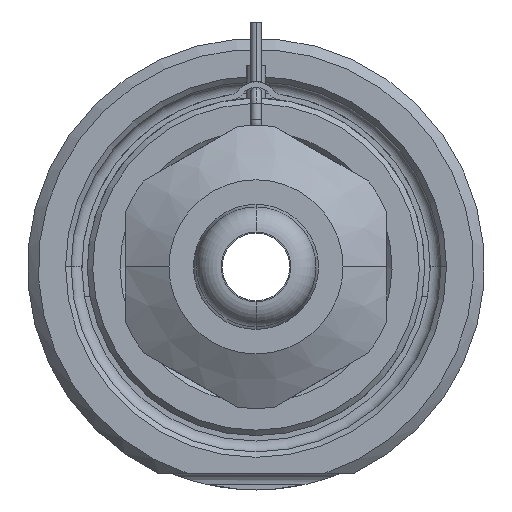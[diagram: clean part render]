
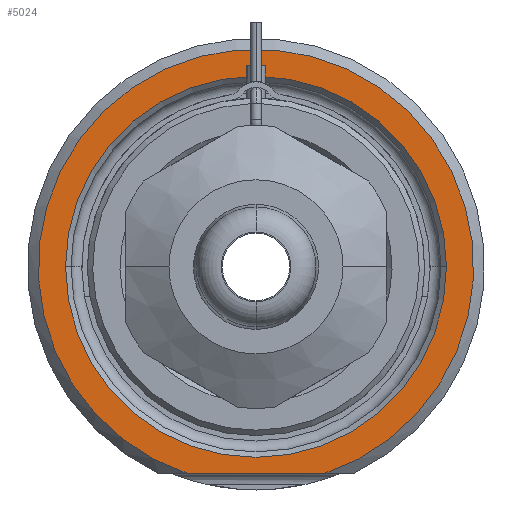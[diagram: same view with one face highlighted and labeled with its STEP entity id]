
A CAD part, front view. The second image highlights one B-rep face of the part: STEP entity #5024.
In plain terms, the highlighted planar face has unit normal (0, -1, 0).
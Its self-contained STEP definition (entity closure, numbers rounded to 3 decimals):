
#1520=DIRECTION('',(1.,0.,0.));
#1521=VECTOR('',#1520,12.49);
#1522=CARTESIAN_POINT('',(-6.245,0.,-19.));
#1523=LINE('',#1522,#1521);
#1524=CARTESIAN_POINT('',(0.,0.,0.));
#1525=DIRECTION('',(0.,1.,0.));
#1526=DIRECTION('',(-1.,0.,0.));
#1527=AXIS2_PLACEMENT_3D('',#1524,#1525,#1526);
#1529=CARTESIAN_POINT('',(0.,0.,0.));
#1530=DIRECTION('',(0.,1.,0.));
#1531=DIRECTION('',(1.,0.,0.));
#1532=AXIS2_PLACEMENT_3D('',#1529,#1530,#1531);
#1638=CARTESIAN_POINT('',(0.,0.,0.));
#1639=DIRECTION('',(0.,-1.,0.));
#1640=DIRECTION('',(0.312,0.,-0.95));
#1641=AXIS2_PLACEMENT_3D('',#1638,#1639,#1640);
#2724=CARTESIAN_POINT('',(-17.5,0.,0.));
#2725=CARTESIAN_POINT('',(17.5,0.,0.));
#2726=VERTEX_POINT('',#2724);
#2727=VERTEX_POINT('',#2725);
#2768=CARTESIAN_POINT('',(-6.245,0.,-19.));
#2769=CARTESIAN_POINT('',(6.245,0.,-19.));
#2770=VERTEX_POINT('',#2768);
#2771=VERTEX_POINT('',#2769);
#5008=CARTESIAN_POINT('',(0.,0.,0.));
#5009=DIRECTION('',(0.,-1.,0.));
#5010=DIRECTION('',(1.,0.,0.));
#5011=AXIS2_PLACEMENT_3D('',#5008,#5009,#5010);
#5012=PLANE('',#5011);
#5014=ORIENTED_EDGE('',*,*,#5013,.F.);
#5016=ORIENTED_EDGE('',*,*,#5015,.F.);
#5017=EDGE_LOOP('',(#5014,#5016));
#5018=FACE_OUTER_BOUND('',#5017,.F.);
#5019=ORIENTED_EDGE('',*,*,#4998,.F.);
#5021=ORIENTED_EDGE('',*,*,#5020,.F.);
#5022=EDGE_LOOP('',(#5019,#5021));
#5023=FACE_BOUND('',#5022,.F.);
#5024=ADVANCED_FACE('',(#5018,#5023),#5012,.T.);
#1528=CIRCLE('',#1527,17.5);
#1533=CIRCLE('',#1532,17.5);
#1642=CIRCLE('',#1641,20.);
#4998=EDGE_CURVE('',#2726,#2727,#1528,.T.);
#5013=EDGE_CURVE('',#2770,#2771,#1523,.T.);
#5015=EDGE_CURVE('',#2771,#2770,#1642,.T.);
#5020=EDGE_CURVE('',#2727,#2726,#1533,.T.);
